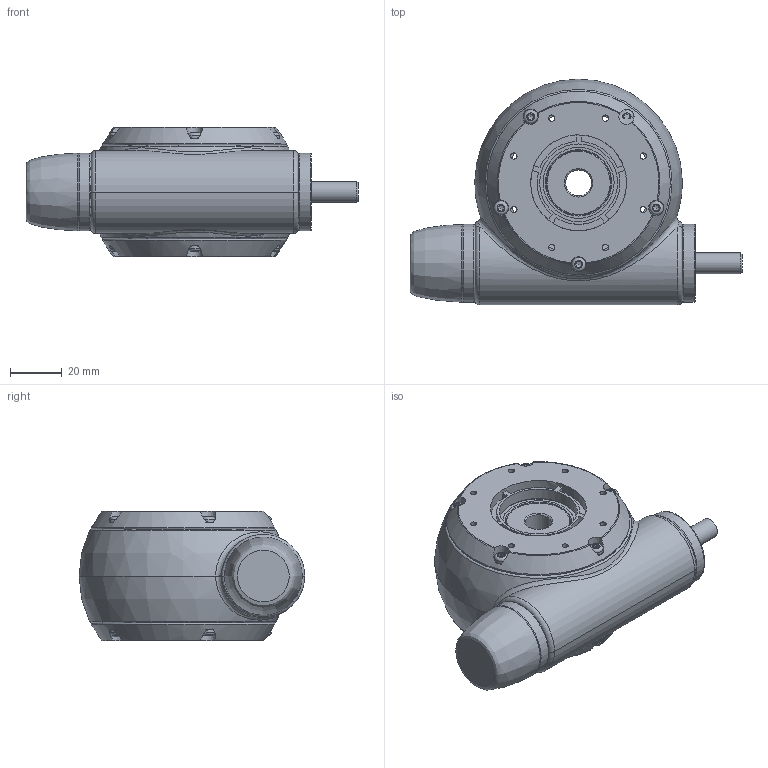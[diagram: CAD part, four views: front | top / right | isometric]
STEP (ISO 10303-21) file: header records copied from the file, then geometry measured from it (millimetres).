
FILE_DESCRIPTION(/* description */ (''),/* implementation_level */ '2;1');
FILE_NAME(/* name */ 'C:\ProgramData\PROCAD GmbH & Co. KG\NdfWork\343208_NdfWork\D00296358.step',/* time_stamp */ '2021-03-15T16:29:56+01:00',/* author */ ('fberger'),/* organization */ (''),/* preprocessor_version */ 'ST-DEVELOPER v18.1',/* originating_system */ 'Autodesk Inventor 2020',/* authorisation */ '');
FILE_SCHEMA (('AUTOMOTIVE_DESIGN { 1 0 10303 214 3 1 1 }'));
Length unit declared in the file: millimetre
Products named in the file (16): D00296358.iam; D00169642.ipt; D00169186.ipt; D00188918.ipt; D00184198.ipt; D00192694.ipt; D00188941.ipt; D00169185; D00187704.ipt; D00187700.ipt; D00187707.ipt; D00190027.ipt; D00296240.ipt; D00169074.ipt; D00170045.ipt; D00169073.ipt
Assembly tree (31 placements, depth 2):
  D00296358.iam
    D00169642.ipt  x2
    D00169186.ipt  x2
    D00188918.ipt  x2
    D00184198.ipt  x4
    D00192694.ipt
    D00188941.ipt  x2
    D00169185  x2
    D00187704.ipt  x2
    D00187700.ipt  x4
    D00187707.ipt  x4
    D00190027.ipt
    D00296240.ipt
    D00169074.ipt
    D00170045.ipt  x2
    D00169073.ipt
Bounding box: 128 x 87 x 50 mm (x, y, z)
Volume: 131230.5 mm3; surface area: 109527.7 mm2
Topology: 71 solids, 71 shells, 1039 faces, 2739 edges, 1871 vertices
Faces by surface type: cylinder 435, plane 295, cone 124, torus 98, sphere 80, bspline 7
Full cylindrical faces by diameter (mm): 2 x8, 2.4 x16, 3 x10, 3.3 x20, 4 x18, 5.3 x10, 8 x11, 8.32 x2, 10 x5, 12 x2, 15 x4, 15.5 x1, 15.68 x2, 16 x4, 17 x2, 20 x2, 23 x2, 24 x1, 25 x4, 26 x2, 27.4 x8, 28.5 x4, 30 x4, 33.3 x4, 34.3 x8, 37 x8, 41 x2, 50.25 x1, 55 x2
Entity records: 18449 total; most frequent: CARTESIAN_POINT 3951, DIRECTION 3138, ORIENTED_EDGE 2662, AXIS2_PLACEMENT_3D 1341, EDGE_CURVE 1331, VERTEX_POINT 930, CIRCLE 772, EDGE_LOOP 675
